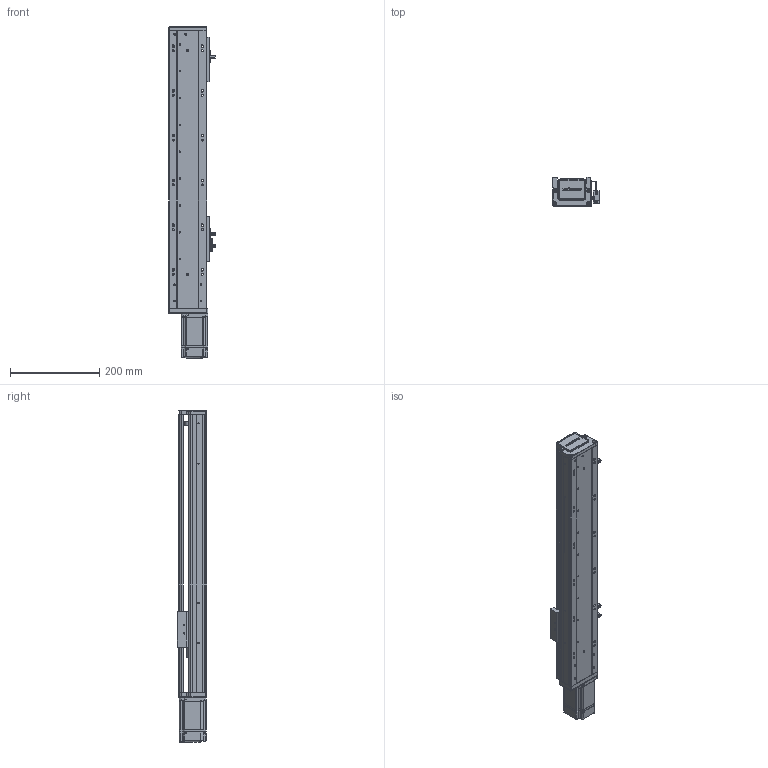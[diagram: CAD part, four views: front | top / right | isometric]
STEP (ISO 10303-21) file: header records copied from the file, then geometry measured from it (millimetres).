
FILE_DESCRIPTION (( 'STEP AP203' ), '1' );
FILE_NAME ('RY80-L1620-300-MK.SLDASM_400.step', '2021-02-20T02:33:10', ( '' ), ( '' ), 'SwSTEP 2.0', 'SolidWorks 2012', '' );
FILE_SCHEMA (( 'CONFIG_CONTROL_DESIGN' ));
Products named in the file (14): 滅袉蝶18-24; RY80-L1620-300-MK.SLDASM_400; RY80綴裔啣; RY80前盖板(100W电机 PCD46 M4); RY80俋离覜茼え; 672嫖萇羲壽假蚾釱; 覜茼ん672; 1; 滅袉蝶18-10; 侂狟200W萇儂; RY80前盖板(200W电机)M4; RY80臏賑輸; RY80-300-MK倰第菁釱_400; RY80-300-MK倰第奻裔啣_400
Assembly tree (16 placements, depth 3):
  RY80-L1620-300-MK.SLDASM_400
    RY80-300-MK倰第菁釱_400
    RY80臏賑輸
    RY80-300-MK倰第奻裔啣_400
    RY80前盖板(200W电机)M4
    侂狟200W萇儂
      1
    滅袉蝶18-10
    672嫖萇羲壽假蚾釱  x2
    覜茼ん672  x3
    RY80俋离覜茼え
    滅袉蝶18-24
    RY80綴裔啣
    RY80前盖板(100W电机 PCD46 M4)
Bounding box: 103.7 x 65 x 742 mm (x, y, z)
Volume: 1375664.7 mm3; surface area: 495040.1 mm2
Topology: 15 solids, 15 shells, 2014 faces, 5550 edges, 3613 vertices
Faces by surface type: plane 1109, cylinder 723, cone 128, bspline 54
Entity records: 63415 total; most frequent: CARTESIAN_POINT 15883, ORIENTED_EDGE 9840, DIRECTION 9201, EDGE_CURVE 4920, VERTEX_POINT 3229, AXIS2_PLACEMENT_3D 3077, LINE 3047, VECTOR 3047
